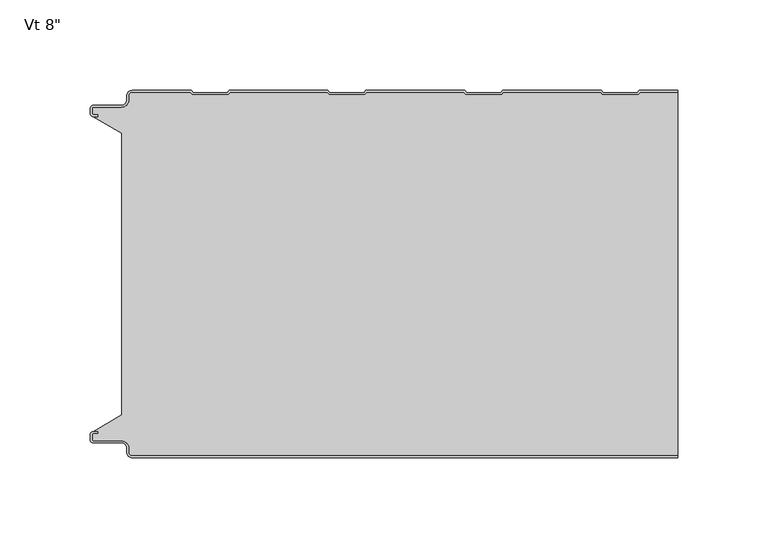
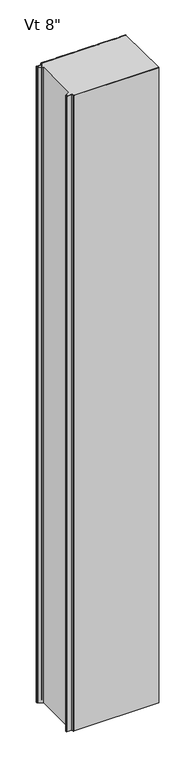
"""IFC4 building model written with IfcOpenShell, lengths in millimetres: plate geometry."""

import ifcopenshell
import ifcopenshell.guid

model = None  # the IFC model being written
_history = None  # IfcOwnerHistory: only IFC2X3 demands one
_inside = {}  # id of a spatial element -> (the spatial element, [elements in it])
_under = {}  # id of a project, library or spatial element -> (it, [spatial elements below it])
_declared = {}  # id of a project -> (the project, [libraries it declares])
_typed = {}  # id of a type object -> (the type object, [elements of that type])
_made_of = {}  # id of a material, layer set ... -> (it, [elements and type objects made of it])


def new_model(schema):
    """Start an empty IFC model of exactly this schema.

    Asked for "IFC4X3", IfcOpenShell would pick the latest addendum, in which some entities
    have other attributes; the version numbers below select the first issue.
    IFC2X3 requires an IfcOwnerHistory on every rooted entity: one is made here for all.
    """
    global model, _history
    if schema == "IFC4X3":
        model = ifcopenshell.file(schema_version=(4, 3, 0, 0))
    else:
        model = ifcopenshell.file(schema=schema)
    _inside.clear()
    _under.clear()
    _declared.clear()
    _typed.clear()
    _made_of.clear()
    _history = None
    if model.schema == "IFC2X3":
        org = make("IfcOrganization", Name="unknown")
        user = make(
            "IfcPersonAndOrganization",
            ThePerson=make("IfcPerson", FamilyName="unknown"),
            TheOrganization=org,
        )
        app = make(
            "IfcApplication",
            ApplicationDeveloper=org,
            Version="unknown",
            ApplicationFullName="unknown",
            ApplicationIdentifier="unknown",
        )
        _history = make(
            "IfcOwnerHistory",
            OwningUser=user,
            OwningApplication=app,
            ChangeAction="ADDED",
            CreationDate=0,
        )
    return model


def make(cls, **values):
    """One entity of the class cls with the attributes given. An attribute that is None is left unset."""
    return model.create_entity(
        cls, **{name: value for name, value in values.items() if value is not None}
    )


def rooted(cls, **values):
    """An entity with a GlobalId (a new one), such as an element, a storey or a relation."""
    return make(cls, GlobalId=ifcopenshell.guid.new(), OwnerHistory=_history, **values)


def si_unit(unit_type, name, prefix=None):
    """IfcSIUnit, for example si_unit("LENGTHUNIT", "METRE", prefix="MILLI")."""
    return make("IfcSIUnit", UnitType=unit_type, Prefix=prefix, Name=name)


def assignment(units):
    """IfcUnitAssignment: the units of a project."""
    return None if units is None else make("IfcUnitAssignment", Units=units)


def point(xyz):
    """IfcCartesianPoint."""
    return None if xyz is None else make("IfcCartesianPoint", Coordinates=xyz)


def direction(xyz):
    """IfcDirection."""
    return None if xyz is None else make("IfcDirection", DirectionRatios=xyz)


def frame(location, z_axis=None, x_axis=None):
    """IfcAxis2Placement3D, a coordinate frame: its origin and axes. An axis left out is left unset."""
    return make(
        "IfcAxis2Placement3D",
        Location=point(location),
        Axis=direction(z_axis),
        RefDirection=direction(x_axis),
    )


def origin():
    """The frame at (0, 0, 0) with its axes left unset."""
    return frame((0.0, 0.0, 0.0))


def place(relative_to, where):
    """IfcLocalPlacement: puts the frame where relative to a parent placement (None: the world)."""
    return make(
        "IfcLocalPlacement", PlacementRelTo=relative_to, RelativePlacement=where
    )


def context(
    kind, dimensions, precision=None, world=None, true_north=None, identifier=None
):
    """IfcGeometricRepresentationContext, for example the 3D "Model" context."""
    return make(
        "IfcGeometricRepresentationContext",
        ContextIdentifier=identifier,
        ContextType=kind,
        CoordinateSpaceDimension=dimensions,
        Precision=precision,
        WorldCoordinateSystem=world,
        TrueNorth=true_north,
    )


def project(units=None, contexts=None):
    """IfcProject with its units and contexts."""
    return rooted(
        "IfcProject",
        Name="project",
        RepresentationContexts=contexts,
        UnitsInContext=assignment(units),
    )


def spatial(cls, under=None, at=None, **own):
    """A site, building, storey or space (cls), placed at a placement, below another one or the project."""
    s = rooted(cls, ObjectPlacement=at, **own)
    if under is not None:
        _under.setdefault(under.id(), (under, []))[1].append(s)
    return s


def polyline(points):
    """IfcPolyline through the points."""
    return make("IfcPolyline", Points=[point(p) for p in points])


def circle_curve(where, radius):
    """IfcCircle in the frame where."""
    return make("IfcCircle", Position=where, Radius=radius)


def shape(context_of_items, identifier, shape_type, items):
    """IfcShapeRepresentation: the items that make up one representation, for example the "Body"."""
    return make(
        "IfcShapeRepresentation",
        ContextOfItems=context_of_items,
        RepresentationIdentifier=identifier,
        RepresentationType=shape_type,
        Items=items,
    )


def source(mapping_origin, context_of_items, identifier, shape_type, items):
    """IfcRepresentationMap: a shape defined once, which mapped items show again and again."""
    return make(
        "IfcRepresentationMap",
        MappingOrigin=mapping_origin,
        MappedRepresentation=shape(context_of_items, identifier, shape_type, items),
    )


def transform(
    local_origin,
    x_axis=None,
    y_axis=None,
    z_axis=None,
    scale=None,
    scale2=None,
    scale3=None,
    uniform=True,
):
    """IfcCartesianTransformationOperator3D, or its non-uniform kind. x_axis, y_axis, z_axis: its Axis1, 2, 3."""
    if uniform:
        return make(
            "IfcCartesianTransformationOperator3D",
            Axis1=direction(x_axis),
            Axis2=direction(y_axis),
            LocalOrigin=point(local_origin),
            Scale=scale,
            Axis3=direction(z_axis),
        )
    return make(
        "IfcCartesianTransformationOperator3DnonUniform",
        Axis1=direction(x_axis),
        Axis2=direction(y_axis),
        LocalOrigin=point(local_origin),
        Scale=scale,
        Axis3=direction(z_axis),
        Scale2=scale2,
        Scale3=scale3,
    )


def mapped(mapping_source, mapping_target):
    """IfcMappedItem: shows the shape of a source again, moved by a transform."""
    return make(
        "IfcMappedItem", MappingSource=mapping_source, MappingTarget=mapping_target
    )


def made_of(thing, what):
    """Note that an element or type object is made of a material, layer set ...; save() writes the relation."""
    if what is not None:
        _made_of.setdefault(what.id(), (what, []))[1].append(thing)
    return thing


def element(
    cls,
    number,
    at=None,
    inside=None,
    cuts=None,
    type_object=None,
    material=None,
    context=None,
    identifier="Body",
    shape_type=None,
    held_by="IfcProductDefinitionShape",
    body=None,
    shapes=None,
    **own,
):
    """One element of the class cls, such as IfcWall. Its Tag is "e" and its number.

    at: its placement. inside: the storey or other place that contains it. cuts: it is an
    opening in that element (IfcRelVoidsElement). A single representation is given by context,
    identifier, shape_type and body (its items); several are given by shapes. held_by: the class
    of the entity that holds the representations. save() writes the other relations.
    """
    e = rooted(cls, Tag="e%d" % number, ObjectPlacement=at, **own)
    if body is not None:
        shapes = [shape(context, identifier, shape_type, body)]
    if shapes is not None:
        e.Representation = make(held_by, Representations=shapes)
    if inside is not None:
        _inside.setdefault(inside.id(), (inside, []))[1].append(e)
    if cuts is not None:
        rooted(
            "IfcRelVoidsElement", RelatingBuildingElement=cuts, RelatedOpeningElement=e
        )
    if type_object is not None:
        _typed.setdefault(type_object.id(), (type_object, []))[1].append(e)
    return made_of(e, material)


def aggregate(whole, parts):
    """IfcRelAggregates: a whole, such as a stair, and the parts it consists of."""
    return rooted("IfcRelAggregates", RelatingObject=whole, RelatedObjects=parts)


def save(model, path):
    """Write the relations noted so far, then the file.

    IfcRelAggregates (storeys below a building ...), IfcRelContainedInSpatialStructure (elements
    in a storey), IfcRelDefinesByType, IfcRelAssociatesMaterial and IfcRelDeclares: one each for
    every whole, place, type object, material and project.
    """
    for whole, parts in _under.values():
        aggregate(whole, parts)
    for where, things in _inside.values():
        rooted(
            "IfcRelContainedInSpatialStructure",
            RelatedElements=things,
            RelatingStructure=where,
        )
    for kind, things in _typed.values():
        rooted("IfcRelDefinesByType", RelatedObjects=things, RelatingType=kind)
    for what, things in _made_of.values():
        rooted("IfcRelAssociatesMaterial", RelatedObjects=things, RelatingMaterial=what)
    for by, libraries in _declared.values():
        rooted("IfcRelDeclares", RelatingContext=by, RelatedDefinitions=libraries)
    model.write(path)


def plane_surface(at):
    """IfcPlane: the flat surface through the origin of the frame at, square to its z axis."""
    return make("IfcPlane", Position=at)


def cylinder_surface(at, radius):
    """IfcCylindricalSurface: all points at the distance radius from the z axis of the frame at."""
    return make("IfcCylindricalSurface", Position=at, Radius=radius)


def revolved_surface(curve, axis_point, axis_direction):
    """IfcSurfaceOfRevolution: the curve turned about the line through axis_point along axis_direction."""
    return make(
        "IfcSurfaceOfRevolution",
        SweptCurve=make("IfcArbitraryOpenProfileDef", ProfileType="CURVE", Curve=curve),
        AxisPosition=make("IfcAxis1Placement", Location=point(axis_point), Axis=direction(axis_direction)),
    )


def advanced_brep(points, edges, surfaces, faces):
    """IfcAdvancedBrep: a solid bounded by faces that lie on surfaces and meet in shared edges.

    An edge is (start, end): straight between two places in points (the first is 0);
    or (start, end, curve); or (start, end, curve, False) where it runs against its curve.
    A face is (place in surfaces, loops), or (place, loops, False) where it looks against
    its surface's normal. A loop lists edges by number (the first is 1), with a minus sign
    where the edge is run from its end to its start. The first loop is the outer one.
    """
    corners = [point(p) for p in points]
    vertices = [make("IfcVertexPoint", VertexGeometry=c) for c in corners]
    made = []
    for start, end, *more in edges:
        made.append(
            make(
                "IfcEdgeCurve",
                EdgeStart=vertices[start],
                EdgeEnd=vertices[end],
                EdgeGeometry=more[0] if more else make("IfcPolyline", Points=[corners[start], corners[end]]),
                SameSense=more[1] if len(more) > 1 else True,
            )
        )
    hull = []
    for where, loops, *sense in faces:
        bounds = []
        for j, loop in enumerate(loops):
            ring = [make("IfcOrientedEdge", EdgeElement=made[abs(k) - 1], Orientation=k > 0) for k in loop]
            bounds.append(
                make(
                    "IfcFaceOuterBound" if j == 0 else "IfcFaceBound",
                    Bound=make("IfcEdgeLoop", EdgeList=ring),
                    Orientation=True,
                )
            )
        hull.append(make("IfcAdvancedFace", Bounds=bounds, FaceSurface=surfaces[where], SameSense=sense[0] if sense else True))
    return make("IfcAdvancedBrep", Outer=make("IfcClosedShell", CfsFaces=hull))


def plate_b0e5fa2d(model_context):
    return source(origin(), model_context, "Body", "AdvancedBrep", [
        advanced_brep(
        [(133.0522163, -1.0, 2400.0), (153.7374998, -1.0, 2400.0), (153.7374998, 0.0, 2400.0), (132.6097769, 0.0, 2400.0), (131.5372521, -1.1911595, 2400.0), (112.6391361, -1.1911595, 2400.0), (111.5666112, 0.0, 2400.0), (56.9871567, 0.0, 2400.0), (55.9146318, -1.1911595, 2400.0), (37.0165158, -1.1911595, 2400.0), (35.943991, 0.0, 2400.0), (-18.6354636, 0.0, 2400.0), (-19.7079884, -1.1911595, 2400.0), (-38.6061045, -1.1911595, 2400.0), (-39.6786293, 0.0, 2400.0), (-94.2580838, 0.0, 2400.0), (-95.3306087, -1.1911595, 2400.0), (-114.2287247, -1.1911595, 2400.0), (-115.3012496, 0.0, 2400.0), (-147.9102806, 0.0, 2400.0), (-150.8875472, -2.9772904, 2400.0), (-150.8875472, -5.2691742, 2400.0), (-153.8648158, -8.2464427, 2400.0), (-169.4612418, -8.2464427, 2400.0), (-171.0491183, -9.8343193, 2400.0), (-171.0491183, -12.905868, 2400.0), (-169.4612418, -14.4937445, 2400.0), (-167.1062063, -14.4937445, 2400.0), (-167.1062063, -13.4937445, 2400.0), (-169.4612418, -13.4937445, 2400.0), (-170.0491183, -12.905868, 2400.0), (-170.0491183, -9.8343193, 2400.0), (-169.4612418, -9.2464427, 2400.0), (-153.8648158, -9.2464427, 2400.0), (-149.8875472, -5.2691742, 2400.0), (-149.8875472, -2.9772904, 2400.0), (-147.9102799, -1.0000218, 2400.0), (-115.7436889, -1.0, 2400.0), (-114.671164, -2.1911595, 2400.0), (-94.8881694, -2.1911595, 2400.0), (-93.8156445, -1.0, 2400.0), (-40.1210686, -1.0, 2400.0), (-39.0485438, -2.1911595, 2400.0), (-19.2655491, -2.1911595, 2400.0), (-18.1930243, -1.0, 2400.0), (35.5015516, -1.0, 2400.0), (36.5740765, -2.1911595, 2400.0), (56.3570712, -2.1911595, 2400.0), (57.429596, -1.0, 2400.0), (111.1241719, -1.0, 2400.0), (112.1966967, -2.1911595, 2400.0), (131.9796914, -2.1911595, 2400.0), (132.6097769, 0.0, 0.0), (153.7374998, 0.0, 0.0), (153.7374998, -1.0, 0.0), (133.0522163, -1.0, 0.0), (131.9796914, -2.1911595, 0.0), (112.1966967, -2.1911595, 0.0), (111.1241719, -1.0, 0.0), (57.429596, -1.0, 0.0), (56.3570712, -2.1911595, 0.0), (36.5740765, -2.1911595, 0.0), (35.5015516, -1.0, 0.0), (-18.1930243, -1.0, 0.0), (-19.2655491, -2.1911595, 0.0), (-39.0485438, -2.1911595, 0.0), (-40.1210686, -1.0, 0.0), (-93.8156445, -1.0, 0.0), (-94.8881694, -2.1911595, 0.0), (-114.671164, -2.1911595, 0.0), (-115.7436889, -1.0, 0.0), (-147.9102799, -1.0, 0.0), (-149.8875472, -2.9772904, 0.0), (-149.8875472, -5.2691742, 0.0), (-153.8648158, -9.2464427, 0.0), (-169.4612418, -9.2464427, 0.0), (-170.0491183, -9.8343193, 0.0), (-170.0491183, -12.905868, 0.0), (-169.4612418, -13.4937445, 0.0), (-167.1062063, -13.4937445, 0.0), (-167.1062063, -14.4937445, 0.0), (-169.4612418, -14.4937445, 0.0), (-171.0491183, -12.905868, 0.0), (-171.0491183, -9.8343193, 0.0), (-169.4612418, -8.2464427, 0.0), (-153.8648158, -8.2464427, 0.0), (-150.8875472, -5.2691742, 0.0), (-150.8875472, -2.9772904, 0.0), (-147.9102806, -2.18e-05, 0.0), (-115.3012496, 0.0, 0.0), (-114.2287247, -1.1911595, 0.0), (-95.3306087, -1.1911595, 0.0), (-94.2580838, 0.0, 0.0), (-39.6786293, 0.0, 0.0), (-38.6061045, -1.1911595, 0.0), (-19.7079884, -1.1911595, 0.0), (-18.6354636, 0.0, 0.0), (35.943991, 0.0, 0.0), (37.0165158, -1.1911595, 0.0), (55.9146318, -1.1911595, 0.0), (56.9871567, 0.0, 0.0), (111.5666112, 0.0, 0.0), (112.6391361, -1.1911595, 0.0), (131.5372521, -1.1911595, 0.0)],
        [
            (0, 1),
            (1, 2),
            (2, 3),
            (3, 4),
            (4, 5),
            (5, 6),
            (6, 7),
            (7, 8),
            (8, 9),
            (9, 10),
            (10, 11),
            (11, 12),
            (12, 13),
            (13, 14),
            (14, 15),
            (15, 16),
            (16, 17),
            (17, 18),
            (18, 19),
            (19, 20, circle_curve(frame((-147.9102787, -2.9772904, 2400.0), z_axis=(0.0, 0.0, 1.0), x_axis=(0.0, 1.0, 0.0)), 2.9772685)),
            (20, 21),
            (21, 22, circle_curve(frame((-153.8648158, -5.2691742, 2400.0), z_axis=(0.0, 0.0, -1.0), x_axis=(0.0, 1.0, 0.0)), 2.9772685)),
            (22, 23),
            (23, 24, circle_curve(frame((-169.4612418, -9.8343193, 2400.0), z_axis=(0.0, 0.0, 1.0), x_axis=(0.0, 1.0, 0.0)), 1.5878765)),
            (24, 25),
            (25, 26, circle_curve(frame((-169.4612418, -12.905868, 2400.0), z_axis=(0.0, 0.0, 1.0), x_axis=(0.0, 1.0, 0.0)), 1.5878765)),
            (26, 27),
            (27, 28),
            (28, 29),
            (29, 30, circle_curve(frame((-169.4612418, -12.905868, 2400.0), z_axis=(0.0, 0.0, -1.0), x_axis=(0.0, 1.0, 0.0)), 0.5878765)),
            (30, 31),
            (31, 32, circle_curve(frame((-169.4612418, -9.8343193, 2400.0), z_axis=(0.0, 0.0, -1.0), x_axis=(0.0, 1.0, 0.0)), 0.5878765)),
            (32, 33),
            (33, 34, circle_curve(frame((-153.8648158, -5.2691742, 2400.0), z_axis=(0.0, 0.0, 1.0), x_axis=(0.0, 1.0, 0.0)), 3.9772685)),
            (34, 35),
            (35, 36, circle_curve(frame((-147.9102787, -2.9772904, 2400.0), z_axis=(0.0, 0.0, -1.0), x_axis=(0.0, 1.0, 0.0)), 1.9772685)),
            (36, 37),
            (37, 38),
            (38, 39),
            (39, 40),
            (40, 41),
            (41, 42),
            (42, 43),
            (43, 44),
            (44, 45),
            (45, 46),
            (46, 47),
            (47, 48),
            (48, 49),
            (49, 50),
            (50, 51),
            (51, 0),
            (52, 53),
            (53, 54),
            (54, 55),
            (55, 56),
            (56, 57),
            (57, 58),
            (58, 59),
            (59, 60),
            (60, 61),
            (61, 62),
            (62, 63),
            (63, 64),
            (64, 65),
            (65, 66),
            (66, 67),
            (67, 68),
            (68, 69),
            (69, 70),
            (70, 71),
            (71, 72, circle_curve(frame((-147.9102787, -2.9772904, 0.0), z_axis=(0.0, 0.0, 1.0), x_axis=(0.0, 1.0, 0.0)), 1.9772685)),
            (72, 73),
            (73, 74, circle_curve(frame((-153.8648158, -5.2691742, 0.0), z_axis=(0.0, 0.0, -1.0), x_axis=(0.0, 1.0, 0.0)), 3.9772685)),
            (74, 75),
            (75, 76, circle_curve(frame((-169.4612418, -9.8343193, 0.0), z_axis=(0.0, 0.0, 1.0), x_axis=(0.0, 1.0, 0.0)), 0.5878765)),
            (76, 77),
            (77, 78, circle_curve(frame((-169.4612418, -12.905868, 0.0), z_axis=(0.0, 0.0, 1.0), x_axis=(0.0, 1.0, 0.0)), 0.5878765)),
            (78, 79),
            (79, 80),
            (80, 81),
            (81, 82, circle_curve(frame((-169.4612418, -12.905868, 0.0), z_axis=(0.0, 0.0, -1.0), x_axis=(0.0, 1.0, 0.0)), 1.5878765)),
            (82, 83),
            (83, 84, circle_curve(frame((-169.4612418, -9.8343193, 0.0), z_axis=(0.0, 0.0, -1.0), x_axis=(0.0, 1.0, 0.0)), 1.5878765)),
            (84, 85),
            (85, 86, circle_curve(frame((-153.8648158, -5.2691742, 0.0), z_axis=(0.0, 0.0, 1.0), x_axis=(0.0, 1.0, 0.0)), 2.9772685)),
            (86, 87),
            (87, 88, circle_curve(frame((-147.9102787, -2.9772904, 0.0), z_axis=(0.0, 0.0, -1.0), x_axis=(0.0, 1.0, 0.0)), 2.9772685)),
            (88, 89),
            (89, 90),
            (90, 91),
            (91, 92),
            (92, 93),
            (93, 94),
            (94, 95),
            (95, 96),
            (96, 97),
            (97, 98),
            (98, 99),
            (99, 100),
            (100, 101),
            (101, 102),
            (102, 103),
            (103, 52),
            (54, 1),
            (0, 55),
            (51, 56),
            (50, 57),
            (49, 58),
            (48, 59),
            (47, 60),
            (46, 61),
            (45, 62),
            (44, 63),
            (43, 64),
            (42, 65),
            (41, 66),
            (40, 67),
            (39, 68),
            (38, 69),
            (37, 70),
            (36, 71),
            (35, 72),
            (34, 73),
            (33, 74),
            (32, 75),
            (31, 76),
            (30, 77),
            (29, 78),
            (28, 79),
            (27, 80),
            (26, 81),
            (25, 82),
            (24, 83),
            (23, 84),
            (22, 85),
            (21, 86),
            (20, 87),
            (19, 88),
            (18, 89),
            (17, 90),
            (16, 91),
            (15, 92),
            (14, 93),
            (13, 94),
            (12, 95),
            (11, 96),
            (10, 97),
            (9, 98),
            (8, 99),
            (7, 100),
            (6, 101),
            (5, 102),
            (4, 103),
            (3, 52),
            (2, 53),
        ],
        [
            plane_surface(frame((422.5250002, 0.0, 2400.0), z_axis=(0.0, 0.0, 1.0), x_axis=(0.0, 1.0, 0.0))),
            plane_surface(frame((422.5250002, 0.0, 0.0), z_axis=(0.0, 0.0, -1.0), x_axis=(0.0, 1.0, 0.0))),
            plane_surface(frame((186.7467922, -1.0, 2400.0), z_axis=(0.0, -1.0, 0.0), x_axis=(0.0, 0.0, -1.0))),
            plane_surface(frame((133.0522163, -1.0, 2400.0), z_axis=(0.7431448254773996, -0.6691306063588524, 0.0), x_axis=(0.0, 0.0, -1.0))),
            plane_surface(frame((131.9796914, -2.1911595, 2400.0), z_axis=(0.0, -1.0, 0.0), x_axis=(0.0, 0.0, -1.0))),
            plane_surface(frame((112.1966967, -2.1911595, 2400.0), z_axis=(-0.7431448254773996, -0.6691306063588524, 0.0), x_axis=(0.0, 0.0, -1.0))),
            plane_surface(frame((111.1241719, -1.0, 2400.0), z_axis=(0.0, -1.0, 0.0), x_axis=(0.0, 0.0, -1.0))),
            plane_surface(frame((57.429596, -1.0, 2400.0), z_axis=(0.7431448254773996, -0.6691306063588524, 0.0), x_axis=(0.0, 0.0, -1.0))),
            plane_surface(frame((56.3570712, -2.1911595, 2400.0), z_axis=(0.0, -1.0, 0.0), x_axis=(0.0, 0.0, -1.0))),
            plane_surface(frame((36.5740765, -2.1911595, 2400.0), z_axis=(-0.7431448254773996, -0.6691306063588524, 0.0), x_axis=(0.0, 0.0, -1.0))),
            plane_surface(frame((35.5015516, -1.0, 2400.0), z_axis=(0.0, -1.0, 0.0), x_axis=(0.0, 0.0, -1.0))),
            plane_surface(frame((-18.1930243, -1.0, 2400.0), z_axis=(0.7431448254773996, -0.6691306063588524, 0.0), x_axis=(0.0, 0.0, -1.0))),
            plane_surface(frame((-19.2655491, -2.1911595, 2400.0), z_axis=(0.0, -1.0, 0.0), x_axis=(0.0, 0.0, -1.0))),
            plane_surface(frame((-39.0485438, -2.1911595, 2400.0), z_axis=(-0.7431448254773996, -0.6691306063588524, 0.0), x_axis=(0.0, 0.0, -1.0))),
            plane_surface(frame((-40.1210686, -1.0, 2400.0), z_axis=(0.0, -1.0, 0.0), x_axis=(0.0, 0.0, -1.0))),
            plane_surface(frame((-93.8156445, -1.0, 2400.0), z_axis=(0.7431448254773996, -0.6691306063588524, 0.0), x_axis=(0.0, 0.0, -1.0))),
            plane_surface(frame((-94.8881694, -2.1911595, 2400.0), z_axis=(0.0, -1.0, 0.0), x_axis=(0.0, 0.0, -1.0))),
            plane_surface(frame((-114.671164, -2.1911595, 2400.0), z_axis=(-0.7431448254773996, -0.6691306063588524, 0.0), x_axis=(0.0, 0.0, -1.0))),
            plane_surface(frame((-115.7436889, -1.0, 2400.0), z_axis=(0.0, -1.0, 0.0), x_axis=(0.0, 0.0, -1.0))),
            revolved_surface(polyline([(-147.9102787, -1.0000218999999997, 0.0), (-147.9102787, -1.0000218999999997, 2400.0)]), (-147.9102787, -2.9772904, 2400.0), (0.0, 0.0, -1.0)),
            plane_surface(frame((-149.8875472, -2.9772904, 2400.0), z_axis=(1.0, 0.0, 0.0), x_axis=(0.0, 0.0, -1.0))),
            cylinder_surface(frame((-153.8648158, -5.2691742, 2400.0), z_axis=(0.0, 0.0, 1.0), x_axis=(0.0, 1.0, 0.0)), 3.9772685),
            plane_surface(frame((-153.8648158, -9.2464427, 2400.0), z_axis=(0.0, -1.0, 0.0), x_axis=(0.0, 0.0, -1.0))),
            revolved_surface(polyline([(-169.4612418, -9.2464428, 0.0), (-169.4612418, -9.2464428, 2400.0)]), (-169.4612418, -9.8343193, 2400.0), (0.0, 0.0, -1.0)),
            plane_surface(frame((-170.0491183, -9.8343193, 2400.0), z_axis=(1.0, 0.0, 0.0), x_axis=(0.0, 0.0, -1.0))),
            revolved_surface(polyline([(-169.4612418, -12.3179915, 0.0), (-169.4612418, -12.3179915, 2400.0)]), (-169.4612418, -12.905868, 2400.0), (0.0, 0.0, -1.0)),
            plane_surface(frame((-169.4612418, -13.4937445, 2400.0), z_axis=(0.0, 1.0, 0.0), x_axis=(0.0, 0.0, -1.0))),
            plane_surface(frame((-167.1062063, -13.4937445, 2400.0), z_axis=(1.0, 0.0, 0.0), x_axis=(0.0, 0.0, -1.0))),
            plane_surface(frame((-167.1062063, -14.4937445, 2400.0), z_axis=(0.0, -1.0, 0.0), x_axis=(0.0, 0.0, -1.0))),
            cylinder_surface(frame((-169.4612418, -12.905868, 2400.0), z_axis=(0.0, 0.0, 1.0), x_axis=(0.0, 1.0, 0.0)), 1.5878765),
            plane_surface(frame((-171.0491183, -12.905868, 2400.0), z_axis=(-1.0, 0.0, 0.0), x_axis=(0.0, 0.0, -1.0))),
            cylinder_surface(frame((-169.4612418, -9.8343193, 2400.0), z_axis=(0.0, 0.0, 1.0), x_axis=(0.0, 1.0, 0.0)), 1.5878765),
            plane_surface(frame((-169.4612418, -8.2464427, 2400.0), z_axis=(0.0, 1.0, 0.0), x_axis=(0.0, 0.0, -1.0))),
            revolved_surface(polyline([(-153.8648158, -2.2919057, 0.0), (-153.8648158, -2.2919057, 2400.0)]), (-153.8648158, -5.2691742, 2400.0), (0.0, 0.0, -1.0)),
            plane_surface(frame((-150.8875472, -5.2691742, 2400.0), z_axis=(-1.0, 0.0, 0.0), x_axis=(0.0, 0.0, -1.0))),
            cylinder_surface(frame((-147.9102787, -2.9772904, 2400.0), z_axis=(0.0, 0.0, 1.0), x_axis=(0.0, 1.0, 0.0)), 2.9772685),
            plane_surface(frame((-147.9102806, 0.0, 2400.0), z_axis=(0.0, 1.0, 0.0), x_axis=(0.0, 0.0, -1.0))),
            plane_surface(frame((-115.3012496, 0.0, 2400.0), z_axis=(0.7431448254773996, 0.6691306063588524, 0.0), x_axis=(0.0, 0.0, -1.0))),
            plane_surface(frame((-114.2287247, -1.1911595, 2400.0), z_axis=(0.0, 1.0, 0.0), x_axis=(0.0, 0.0, -1.0))),
            plane_surface(frame((-95.3306087, -1.1911595, 2400.0), z_axis=(-0.7431448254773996, 0.6691306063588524, 0.0), x_axis=(0.0, 0.0, -1.0))),
            plane_surface(frame((-94.2580838, 0.0, 2400.0), z_axis=(0.0, 1.0, 0.0), x_axis=(0.0, 0.0, -1.0))),
            plane_surface(frame((-39.6786293, 0.0, 2400.0), z_axis=(0.7431448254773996, 0.6691306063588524, 0.0), x_axis=(0.0, 0.0, -1.0))),
            plane_surface(frame((-38.6061045, -1.1911595, 2400.0), z_axis=(0.0, 1.0, 0.0), x_axis=(0.0, 0.0, -1.0))),
            plane_surface(frame((-19.7079884, -1.1911595, 2400.0), z_axis=(-0.7431448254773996, 0.6691306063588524, 0.0), x_axis=(0.0, 0.0, -1.0))),
            plane_surface(frame((-18.6354636, 0.0, 2400.0), z_axis=(0.0, 1.0, 0.0), x_axis=(0.0, 0.0, -1.0))),
            plane_surface(frame((35.943991, 0.0, 2400.0), z_axis=(0.7431448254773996, 0.6691306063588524, 0.0), x_axis=(0.0, 0.0, -1.0))),
            plane_surface(frame((37.0165158, -1.1911595, 2400.0), z_axis=(0.0, 1.0, 0.0), x_axis=(0.0, 0.0, -1.0))),
            plane_surface(frame((55.9146318, -1.1911595, 2400.0), z_axis=(-0.7431448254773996, 0.6691306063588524, 0.0), x_axis=(0.0, 0.0, -1.0))),
            plane_surface(frame((56.9871567, 0.0, 2400.0), z_axis=(0.0, 1.0, 0.0), x_axis=(0.0, 0.0, -1.0))),
            plane_surface(frame((111.5666112, 0.0, 2400.0), z_axis=(0.7431448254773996, 0.6691306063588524, 0.0), x_axis=(0.0, 0.0, -1.0))),
            plane_surface(frame((112.6391361, -1.1911595, 2400.0), z_axis=(0.0, 1.0, 0.0), x_axis=(0.0, 0.0, -1.0))),
            plane_surface(frame((131.5372521, -1.1911595, 2400.0), z_axis=(-0.7431448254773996, 0.6691306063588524, 0.0), x_axis=(0.0, 0.0, -1.0))),
            plane_surface(frame((132.6097769, 0.0, 2400.0), z_axis=(0.0, 1.0, 0.0), x_axis=(0.0, 0.0, -1.0))),
            plane_surface(frame((153.7374998, -213.2, 2400.0), z_axis=(1.0, 0.0, 0.0), x_axis=(0.0, 0.0, -1.0))),
        ],
        [
            (0, [[1, 2, 3, 4, 5, 6, 7, 8, 9, 10, 11, 12, 13, 14, 15, 16, 17, 18, 19, 20, 21, 22, 23, 24, 25, 26, 27, 28, 29, 30, 31, 32, 33, 34, 35, 36, 37, 38, 39, 40, 41, 42, 43, 44, 45, 46, 47, 48, 49, 50, 51, 52]]),
            (1, [[53, 54, 55, 56, 57, 58, 59, 60, 61, 62, 63, 64, 65, 66, 67, 68, 69, 70, 71, 72, 73, 74, 75, 76, 77, 78, 79, 80, 81, 82, 83, 84, 85, 86, 87, 88, 89, 90, 91, 92, 93, 94, 95, 96, 97, 98, 99, 100, 101, 102, 103, 104]]),
            (2, [[-55, 105, -1, 106]]),
            (3, [[107, -56, -106, -52]]),
            (4, [[108, -57, -107, -51]]),
            (5, [[109, -58, -108, -50]]),
            (6, [[110, -59, -109, -49]]),
            (7, [[111, -60, -110, -48]]),
            (8, [[112, -61, -111, -47]]),
            (9, [[113, -62, -112, -46]]),
            (10, [[114, -63, -113, -45]]),
            (11, [[115, -64, -114, -44]]),
            (12, [[116, -65, -115, -43]]),
            (13, [[117, -66, -116, -42]]),
            (14, [[118, -67, -117, -41]]),
            (15, [[119, -68, -118, -40]]),
            (16, [[120, -69, -119, -39]]),
            (17, [[121, -70, -120, -38]]),
            (18, [[122, -71, -121, -37]]),
            (19, [[123, -72, -122, -36]]),
            (20, [[124, -73, -123, -35]]),
            (21, [[125, -74, -124, -34]]),
            (22, [[126, -75, -125, -33]]),
            (23, [[127, -76, -126, -32]]),
            (24, [[128, -77, -127, -31]]),
            (25, [[129, -78, -128, -30]]),
            (26, [[130, -79, -129, -29]]),
            (27, [[131, -80, -130, -28]]),
            (28, [[132, -81, -131, -27]]),
            (29, [[133, -82, -132, -26]]),
            (30, [[134, -83, -133, -25]]),
            (31, [[135, -84, -134, -24]]),
            (32, [[136, -85, -135, -23]]),
            (33, [[137, -86, -136, -22]]),
            (34, [[138, -87, -137, -21]]),
            (35, [[139, -88, -138, -20]]),
            (36, [[140, -89, -139, -19]]),
            (37, [[141, -90, -140, -18]]),
            (38, [[142, -91, -141, -17]]),
            (39, [[143, -92, -142, -16]]),
            (40, [[144, -93, -143, -15]]),
            (41, [[145, -94, -144, -14]]),
            (42, [[146, -95, -145, -13]]),
            (43, [[147, -96, -146, -12]]),
            (44, [[148, -97, -147, -11]]),
            (45, [[149, -98, -148, -10]]),
            (46, [[150, -99, -149, -9]]),
            (47, [[151, -100, -150, -8]]),
            (48, [[152, -101, -151, -7]]),
            (49, [[153, -102, -152, -6]]),
            (50, [[154, -103, -153, -5]]),
            (51, [[155, -104, -154, -4]]),
            (52, [[-3, 156, -53, -155]]),
            (53, [[-105, -54, -156, -2]]),
        ],
    ),
        advanced_brep(
        [(-149.8873936, -200.2223811, 2400.0), (-149.8873936, -197.9308685, 2400.0), (-153.864739, -193.9535232, 2400.0), (-169.4612512, -193.9535232, 2400.0), (-170.0491084, -193.365666, 2400.0), (-170.0491084, -190.2941346, 2400.0), (-169.4612373, -189.7062635, 2400.0), (-167.1062063, -189.7062635, 2400.0), (-167.1062063, -188.7062599, 2400.0), (-169.4612418, -188.7062599, 2400.0), (-171.0491183, -190.2941364, 2400.0), (-171.0491183, -193.3656851, 2400.0), (-169.4612418, -194.9535616, 2400.0), (-153.8648158, -194.9535616, 2400.0), (-150.8875472, -197.9308302, 2400.0), (-150.8875472, -200.222714, 2400.0), (-147.9102787, -203.1999825, 2400.0), (153.7374998, -203.2, 2400.0), (153.7374998, -202.1992912, 2400.0), (-147.9104835, -202.1992912, 2400.0), (-149.8873936, -200.2223811, 0.0), (-147.9104835, -202.1992912, 0.0), (153.7374998, -202.1992912, 0.0), (153.7374998, -203.2, 0.0), (-147.9102787, -203.2, 0.0), (-150.8875472, -200.222714, 0.0), (-150.8875472, -197.9308302, 0.0), (-153.8648158, -194.9535616, 0.0), (-169.4612418, -194.9535616, 0.0), (-171.0491183, -193.3656851, 0.0), (-171.0491183, -190.2941364, 0.0), (-169.4612418, -188.7062599, 0.0), (-167.1062063, -188.7062599, 0.0), (-167.1062063, -189.7062635, 0.0), (-169.4612373, -189.7062635, 0.0), (-170.0491084, -190.2941346, 0.0), (-170.0491084, -193.365666, 0.0), (-169.4612512, -193.9535232, 0.0), (-153.864739, -193.9535232, 0.0), (-149.8873936, -197.9308685, 0.0)],
        [
            (0, 1),
            (1, 2, circle_curve(frame((-153.864739, -197.9308685, 2400.0), z_axis=(0.0, 0.0, 1.0), x_axis=(-1.0, 0.0, 0.0)), 3.9773454)),
            (2, 3),
            (3, 4, circle_curve(frame((-169.4612512, -193.365666, 2400.0), z_axis=(0.0, 0.0, -1.0), x_axis=(-1.0, 0.0, 0.0)), 0.5878572)),
            (4, 5),
            (5, 6, circle_curve(frame((-169.4612373, -190.2941346, 2400.0), z_axis=(0.0, 0.0, -1.0), x_axis=(-1.0, 0.0, 0.0)), 0.5878711)),
            (6, 7),
            (7, 8),
            (8, 9),
            (9, 10, circle_curve(frame((-169.4612418, -190.2941364, 2400.0), z_axis=(0.0, 0.0, 1.0), x_axis=(-1.0, 0.0, 0.0)), 1.5878765)),
            (10, 11),
            (11, 12, circle_curve(frame((-169.4612418, -193.3656851, 2400.0), z_axis=(0.0, 0.0, 1.0), x_axis=(-1.0, 0.0, 0.0)), 1.5878765)),
            (12, 13),
            (13, 14, circle_curve(frame((-153.8648158, -197.9308302, 2400.0), z_axis=(0.0, 0.0, -1.0), x_axis=(-1.0, 0.0, 0.0)), 2.9772685)),
            (14, 15),
            (15, 16, circle_curve(frame((-147.9102787, -200.222714, 2400.0), z_axis=(0.0, 0.0, 1.0), x_axis=(-1.0, 0.0, 0.0)), 2.9772685)),
            (16, 17),
            (17, 18),
            (18, 19),
            (19, 0, circle_curve(frame((-147.9104835, -200.2223811, 2400.0), z_axis=(0.0, 0.0, -1.0), x_axis=(-1.0, 0.0, 0.0)), 1.9769101)),
            (20, 21, circle_curve(frame((-147.9104835, -200.2223811, 0.0), z_axis=(0.0, 0.0, 1.0), x_axis=(-1.0, 0.0, 0.0)), 1.9769101)),
            (21, 22),
            (22, 23),
            (23, 24),
            (24, 25, circle_curve(frame((-147.9102787, -200.222714, 0.0), z_axis=(0.0, 0.0, -1.0), x_axis=(-1.0, 0.0, 0.0)), 2.9772685)),
            (25, 26),
            (26, 27, circle_curve(frame((-153.8648158, -197.9308302, 0.0), z_axis=(0.0, 0.0, 1.0), x_axis=(-1.0, 0.0, 0.0)), 2.9772685)),
            (27, 28),
            (28, 29, circle_curve(frame((-169.4612418, -193.3656851, 0.0), z_axis=(0.0, 0.0, -1.0), x_axis=(-1.0, 0.0, 0.0)), 1.5878765)),
            (29, 30),
            (30, 31, circle_curve(frame((-169.4612418, -190.2941364, 0.0), z_axis=(0.0, 0.0, -1.0), x_axis=(-1.0, 0.0, 0.0)), 1.5878765)),
            (31, 32),
            (32, 33),
            (33, 34),
            (34, 35, circle_curve(frame((-169.4612373, -190.2941346, 0.0), z_axis=(0.0, 0.0, 1.0), x_axis=(-1.0, 0.0, 0.0)), 0.5878711)),
            (35, 36),
            (36, 37, circle_curve(frame((-169.4612512, -193.365666, 0.0), z_axis=(0.0, 0.0, 1.0), x_axis=(-1.0, 0.0, 0.0)), 0.5878572)),
            (37, 38),
            (38, 39, circle_curve(frame((-153.864739, -197.9308685, 0.0), z_axis=(0.0, 0.0, -1.0), x_axis=(-1.0, 0.0, 0.0)), 3.9773454)),
            (39, 20),
            (17, 23),
            (22, 18),
            (16, 24),
            (21, 19),
            (20, 0),
            (39, 1),
            (38, 2),
            (37, 3),
            (4, 36),
            (35, 5),
            (34, 6),
            (33, 7),
            (32, 8),
            (31, 9),
            (30, 10),
            (29, 11),
            (28, 12),
            (27, 13),
            (26, 14),
            (25, 15),
        ],
        [
            plane_surface(frame((422.5250002, -203.2, 2400.0), z_axis=(0.0, 0.0, 1.0), x_axis=(0.0, -1.0, 0.0))),
            plane_surface(frame((422.5250002, -203.2, 0.0), z_axis=(0.0, 0.0, -1.0), x_axis=(0.0, -1.0, 0.0))),
            plane_surface(frame((153.7374998, -213.2, 2400.0), z_axis=(1.0, 0.0, 0.0), x_axis=(0.0, 0.0, -1.0))),
            plane_surface(frame((997.0725653, -203.2, 2400.0), z_axis=(0.0, -1.0, 0.0), x_axis=(0.0, 0.0, -1.0))),
            plane_surface(frame((-147.9104835, -202.1992912, 2400.0), z_axis=(0.0, 1.0, 0.0), x_axis=(0.0, 0.0, -1.0))),
            revolved_surface(polyline([(-149.8873936, -200.2223811, 0.0), (-149.8873936, -200.2223811, 2400.0)]), (-147.9104835, -200.2223811, 2400.0), (0.0, 0.0, -1.0)),
            plane_surface(frame((-149.8873936, -197.9308685, 2400.0), z_axis=(1.0, 0.0, 0.0), x_axis=(0.0, 0.0, -1.0))),
            cylinder_surface(frame((-153.864739, -197.9308685, 2400.0), z_axis=(0.0, 0.0, 1.0), x_axis=(-1.0, 0.0, 0.0)), 3.9773454),
            plane_surface(frame((-169.4612512, -193.9535232, 2400.0), z_axis=(0.0, 1.0, 0.0), x_axis=(0.0, 0.0, -1.0))),
            plane_surface(frame((-170.0491084, -190.2941346, 2400.0), z_axis=(1.0, 0.0, 0.0), x_axis=(0.0, 0.0, -1.0))),
            revolved_surface(polyline([(-170.0491084, -190.2941346, 0.0), (-170.0491084, -190.2941346, 2400.0)]), (-169.4612373, -190.2941346, 2400.0), (0.0, 0.0, -1.0)),
            plane_surface(frame((-167.1062063, -189.7062635, 2400.0), z_axis=(0.0, -1.0, 0.0), x_axis=(0.0, 0.0, -1.0))),
            plane_surface(frame((-167.1062063, -188.7062599, 2400.0), z_axis=(1.0, 0.0, 0.0), x_axis=(0.0, 0.0, -1.0))),
            plane_surface(frame((-169.4612418, -188.7062599, 2400.0), z_axis=(0.0, 1.0, 0.0), x_axis=(0.0, 0.0, -1.0))),
            cylinder_surface(frame((-169.4612418, -190.2941364, 2400.0), z_axis=(0.0, 0.0, 1.0), x_axis=(-1.0, 0.0, 0.0)), 1.5878765),
            plane_surface(frame((-171.0491183, -193.3656851, 2400.0), z_axis=(-1.0, 0.0, 0.0), x_axis=(0.0, 0.0, -1.0))),
            cylinder_surface(frame((-169.4612418, -193.3656851, 2400.0), z_axis=(0.0, 0.0, 1.0), x_axis=(-1.0, 0.0, 0.0)), 1.5878765),
            plane_surface(frame((-153.8648158, -194.9535616, 2400.0), z_axis=(0.0, -1.0, 0.0), x_axis=(0.0, 0.0, -1.0))),
            revolved_surface(polyline([(-156.8420843, -197.9308302, 0.0), (-156.8420843, -197.9308302, 2400.0)]), (-153.8648158, -197.9308302, 2400.0), (0.0, 0.0, -1.0)),
            plane_surface(frame((-150.8875472, -200.222714, 2400.0), z_axis=(-1.0, 0.0, 0.0), x_axis=(0.0, 0.0, -1.0))),
            cylinder_surface(frame((-147.9102787, -200.222714, 2400.0), z_axis=(0.0, 0.0, 1.0), x_axis=(-1.0, 0.0, 0.0)), 2.9772685),
            revolved_surface(polyline([(-170.0491084, -193.365666, 0.0), (-170.0491084, -193.365666, 2400.0)]), (-169.4612512, -193.365666, 2400.0), (0.0, 0.0, -1.0)),
        ],
        [
            (0, [[1, 2, 3, 4, 5, 6, 7, 8, 9, 10, 11, 12, 13, 14, 15, 16, 17, 18, 19, 20]]),
            (1, [[21, 22, 23, 24, 25, 26, 27, 28, 29, 30, 31, 32, 33, 34, 35, 36, 37, 38, 39, 40]]),
            (2, [[41, -23, 42, -18]]),
            (3, [[-24, -41, -17, 43]]),
            (4, [[-19, -42, -22, 44]]),
            (5, [[-44, -21, 45, -20]]),
            (6, [[-45, -40, 46, -1]]),
            (7, [[-46, -39, 47, -2]]),
            (8, [[-47, -38, 48, -3]]),
            (9, [[49, -36, 50, -5]]),
            (10, [[-50, -35, 51, -6]]),
            (11, [[-51, -34, 52, -7]]),
            (12, [[-52, -33, 53, -8]]),
            (13, [[-53, -32, 54, -9]]),
            (14, [[-54, -31, 55, -10]]),
            (15, [[-55, -30, 56, -11]]),
            (16, [[-56, -29, 57, -12]]),
            (17, [[-57, -28, 58, -13]]),
            (18, [[-58, -27, 59, -14]]),
            (19, [[-59, -26, 60, -15]]),
            (20, [[-60, -25, -43, -16]]),
            (21, [[-48, -37, -49, -4]]),
        ],
    ),
        advanced_brep(
        [(-149.88755, -200.2227194, 2400.0), (-147.910276, -202.1999935, 2400.0), (153.7374998, -202.2, 2400.0), (153.7374998, -1.0, 2400.0), (133.0522163, -1.0, 2400.0), (131.9796914, -2.1911595, 2400.0), (112.1966967, -2.1911595, 2400.0), (111.1241719, -1.0, 2400.0), (57.429596, -1.0, 2400.0), (56.3570712, -2.1911595, 2400.0), (36.5740765, -2.1911595, 2400.0), (35.5015516, -1.0, 2400.0), (-18.1930243, -1.0, 2400.0), (-19.2655491, -2.1911595, 2400.0), (-39.0485438, -2.1911595, 2400.0), (-40.1210686, -1.0, 2400.0), (-93.8156445, -1.0, 2400.0), (-94.8881694, -2.1911595, 2400.0), (-114.671164, -2.1911595, 2400.0), (-115.7436889, -1.0000109, 2400.0), (-147.910276, -1.0000109, 2400.0), (-149.88755, -2.9772849, 2400.0), (-149.88755, -5.2691749, 2400.0), (-153.8648171, -9.246442, 2400.0), (-169.4612416, -9.246442, 2400.0), (-170.0491185, -9.8343189, 2400.0), (-170.0491185, -12.9058679, 2400.0), (-169.4612418, -13.4937446, 2400.0), (-167.1062063, -13.4937446, 2400.0), (-167.1062063, -14.4937446, 2400.0), (-169.395785, -14.4937446, 2400.0), (-153.7374998, -23.7509179, 2400.0), (-153.7374998, -179.4490865, 2400.0), (-169.395785, -188.7062598, 2400.0), (-167.1062063, -188.7062598, 2400.0), (-167.1062063, -189.7062598, 2400.0), (-169.4612418, -189.7062598, 2400.0), (-170.0491185, -190.2941365, 2400.0), (-170.0491185, -193.3656854, 2400.0), (-169.4612416, -193.9535623, 2400.0), (-153.8648171, -193.9535623, 2400.0), (-149.88755, -197.9308295, 2400.0), (-149.88755, -200.2227194, 0.0), (-149.88755, -197.9308295, 0.0), (-153.8648171, -193.9535623, 0.0), (-169.4612416, -193.9535623, 0.0), (-170.0491185, -193.3656854, 0.0), (-170.0491185, -190.2941365, 0.0), (-169.4612418, -189.7062598, 0.0), (-167.1062063, -189.7062598, 0.0), (-167.1062063, -188.7062598, 0.0), (-169.395785, -188.7062598, 0.0), (-153.7374998, -179.4490865, 0.0), (-153.7374998, -23.7509179, 0.0), (-169.395785, -14.4937446, 0.0), (-167.1062063, -14.4937446, 0.0), (-167.1062063, -13.4937446, 0.0), (-169.4612418, -13.4937446, 0.0), (-170.0491185, -12.9058679, 0.0), (-170.0491185, -9.8343189, 0.0), (-169.4612416, -9.246442, 0.0), (-153.8648171, -9.246442, 0.0), (-149.88755, -5.2691749, 0.0), (-149.88755, -2.9772849, 0.0), (-147.910276, -1.0000109, 0.0), (-115.7436889, -1.0000109, 0.0), (-114.671164, -2.1911595, 0.0), (-94.8881694, -2.1911595, 0.0), (-93.8156445, -1.0, 0.0), (-40.1210686, -1.0, 0.0), (-39.0485438, -2.1911595, 0.0), (-19.2655491, -2.1911595, 0.0), (-18.1930243, -1.0, 0.0), (35.5015516, -1.0, 0.0), (36.5740765, -2.1911595, 0.0), (56.3570712, -2.1911595, 0.0), (57.429596, -1.0, 0.0), (111.1241719, -1.0, 0.0), (112.1966967, -2.1911595, 0.0), (131.9796914, -2.1911595, 0.0), (133.0522163, -1.0, 0.0), (153.7374998, -1.0, 0.0), (153.7374998, -202.2, 0.0), (-147.910276, -202.2, 0.0)],
        [
            (0, 1, circle_curve(frame((-147.910276, -200.2227194, 2400.0), z_axis=(0.0, 0.0, 1.0), x_axis=(-1.0, 0.0, 0.0)), 1.977274)),
            (1, 2),
            (2, 3),
            (3, 4),
            (4, 5),
            (5, 6),
            (6, 7),
            (7, 8),
            (8, 9),
            (9, 10),
            (10, 11),
            (11, 12),
            (12, 13),
            (13, 14),
            (14, 15),
            (15, 16),
            (16, 17),
            (17, 18),
            (18, 19),
            (19, 20),
            (20, 21, circle_curve(frame((-147.910276, -2.9772849, 2400.0), z_axis=(0.0, 0.0, 1.0), x_axis=(0.0, 1.0, 0.0)), 1.977274)),
            (21, 22),
            (22, 23, circle_curve(frame((-153.8648171, -5.2691749, 2400.0), z_axis=(0.0, 0.0, -1.0), x_axis=(0.0, 1.0, 0.0)), 3.9772671)),
            (23, 24),
            (24, 25, circle_curve(frame((-169.4612416, -9.8343189, 2400.0), z_axis=(0.0, 0.0, 1.0), x_axis=(0.0, 1.0, 0.0)), 0.5878769)),
            (25, 26),
            (26, 27, circle_curve(frame((-169.4612418, -12.9058679, 2400.0), z_axis=(0.0, 0.0, 1.0), x_axis=(0.0, 1.0, 0.0)), 0.5878766)),
            (27, 28),
            (28, 29),
            (29, 30),
            (30, 31),
            (31, 32),
            (32, 33),
            (33, 34),
            (34, 35),
            (35, 36),
            (36, 37, circle_curve(frame((-169.4612418, -190.2941365, 2400.0), z_axis=(0.0, 0.0, 1.0), x_axis=(-1.0, 0.0, 0.0)), 0.5878766)),
            (37, 38),
            (38, 39, circle_curve(frame((-169.4612416, -193.3656854, 2400.0), z_axis=(0.0, 0.0, 1.0), x_axis=(-1.0, 0.0, 0.0)), 0.5878769)),
            (39, 40),
            (40, 41, circle_curve(frame((-153.8648171, -197.9308295, 2400.0), z_axis=(0.0, 0.0, -1.0), x_axis=(-1.0, 0.0, 0.0)), 3.9772671)),
            (41, 0),
            (42, 43),
            (43, 44, circle_curve(frame((-153.8648171, -197.9308295, 0.0), z_axis=(0.0, 0.0, 1.0), x_axis=(-1.0, 0.0, 0.0)), 3.9772671)),
            (44, 45),
            (45, 46, circle_curve(frame((-169.4612416, -193.3656854, 0.0), z_axis=(0.0, 0.0, -1.0), x_axis=(-1.0, 0.0, 0.0)), 0.5878769)),
            (46, 47),
            (47, 48, circle_curve(frame((-169.4612418, -190.2941365, 0.0), z_axis=(0.0, 0.0, -1.0), x_axis=(-1.0, 0.0, 0.0)), 0.5878766)),
            (48, 49),
            (49, 50),
            (50, 51),
            (51, 52),
            (52, 53),
            (53, 54),
            (54, 55),
            (55, 56),
            (56, 57),
            (57, 58, circle_curve(frame((-169.4612418, -12.9058679, 0.0), z_axis=(0.0, 0.0, -1.0), x_axis=(0.0, 1.0, 0.0)), 0.5878766)),
            (58, 59),
            (59, 60, circle_curve(frame((-169.4612416, -9.8343189, 0.0), z_axis=(0.0, 0.0, -1.0), x_axis=(0.0, 1.0, 0.0)), 0.5878769)),
            (60, 61),
            (61, 62, circle_curve(frame((-153.8648171, -5.2691749, 0.0), z_axis=(0.0, 0.0, 1.0), x_axis=(0.0, 1.0, 0.0)), 3.9772671)),
            (62, 63),
            (63, 64, circle_curve(frame((-147.910276, -2.9772849, 0.0), z_axis=(0.0, 0.0, -1.0), x_axis=(0.0, 1.0, 0.0)), 1.977274)),
            (64, 65),
            (65, 66),
            (66, 67),
            (67, 68),
            (68, 69),
            (69, 70),
            (70, 71),
            (71, 72),
            (72, 73),
            (73, 74),
            (74, 75),
            (75, 76),
            (76, 77),
            (77, 78),
            (78, 79),
            (79, 80),
            (80, 81),
            (81, 82),
            (82, 83),
            (83, 42, circle_curve(frame((-147.910276, -200.2227194, 0.0), z_axis=(0.0, 0.0, -1.0), x_axis=(-1.0, 0.0, 0.0)), 1.977274)),
            (31, 53),
            (52, 32),
            (30, 54),
            (29, 55),
            (28, 56),
            (27, 57),
            (26, 58),
            (25, 59),
            (24, 60),
            (23, 61),
            (22, 62),
            (21, 63),
            (20, 64),
            (19, 65),
            (18, 66),
            (17, 67),
            (16, 68),
            (15, 69),
            (14, 70),
            (13, 71),
            (12, 72),
            (11, 73),
            (10, 74),
            (9, 75),
            (8, 76),
            (7, 77),
            (6, 78),
            (5, 79),
            (4, 80),
            (3, 81),
            (2, 82),
            (41, 43),
            (42, 0),
            (40, 44),
            (39, 45),
            (38, 46),
            (37, 47),
            (36, 48),
            (35, 49),
            (34, 50),
            (33, 51),
            (1, 83),
        ],
        [
            plane_surface(frame((422.5250002, -202.2, 2400.0), z_axis=(0.0, 0.0, 1.0), x_axis=(0.0, -1.0, 0.0))),
            plane_surface(frame((422.5250002, -202.2, 0.0), z_axis=(0.0, 0.0, -1.0), x_axis=(0.0, -1.0, 0.0))),
            plane_surface(frame((-153.7374998, -179.4490865, 2400.0), z_axis=(-1.0, 0.0, 0.0), x_axis=(0.0, 0.0, -1.0))),
            plane_surface(frame((-153.7374998, -23.7509179, 2400.0), z_axis=(-0.5089147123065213, -0.860816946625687, 0.0), x_axis=(0.0, 0.0, -1.0))),
            plane_surface(frame((-169.395785, -14.4937446, 2400.0), z_axis=(0.0, 1.0, 0.0), x_axis=(0.0, 0.0, -1.0))),
            plane_surface(frame((-167.1062063, -14.4937446, 2400.0), z_axis=(-1.0, 0.0, 0.0), x_axis=(0.0, 0.0, -1.0))),
            plane_surface(frame((-167.1062063, -13.4937446, 2400.0), z_axis=(0.0, -1.0, 0.0), x_axis=(0.0, 0.0, -1.0))),
            cylinder_surface(frame((-169.4612418, -12.9058679, 2400.0), z_axis=(0.0, 0.0, 1.0), x_axis=(0.0, 1.0, 0.0)), 0.5878766),
            plane_surface(frame((-170.0491185, -12.9058679, 2400.0), z_axis=(-1.0, 0.0, 0.0), x_axis=(0.0, 0.0, -1.0))),
            cylinder_surface(frame((-169.4612416, -9.8343189, 2400.0), z_axis=(0.0, 0.0, 1.0), x_axis=(0.0, 1.0, 0.0)), 0.5878769),
            plane_surface(frame((-169.4612416, -9.246442, 2400.0), z_axis=(0.0, 1.0, 0.0), x_axis=(0.0, 0.0, -1.0))),
            revolved_surface(polyline([(-153.8648171, -1.2919078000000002, 0.0), (-153.8648171, -1.2919078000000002, 2400.0)]), (-153.8648171, -5.2691749, 2400.0), (0.0, 0.0, -1.0)),
            plane_surface(frame((-149.88755, -5.2691749, 2400.0), z_axis=(-1.0, 0.0, 0.0), x_axis=(0.0, 0.0, -1.0))),
            cylinder_surface(frame((-147.910276, -2.9772849, 2400.0), z_axis=(0.0, 0.0, 1.0), x_axis=(0.0, 1.0, 0.0)), 1.977274),
            plane_surface(frame((-147.910276, -1.0000109, 2400.0), z_axis=(0.0, 1.0, 0.0), x_axis=(0.0, 0.0, -1.0))),
            plane_surface(frame((-115.7436889, -1.0000109, 2400.0), z_axis=(0.7431417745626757, 0.669133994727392, 0.0), x_axis=(0.0, 0.0, -1.0))),
            plane_surface(frame((-114.671164, -2.1911595, 2400.0), z_axis=(0.0, 1.0, 0.0), x_axis=(0.0, 0.0, -1.0))),
            plane_surface(frame((-94.8881694, -2.1911595, 2400.0), z_axis=(-0.7431448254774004, 0.6691306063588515, 0.0), x_axis=(0.0, 0.0, -1.0))),
            plane_surface(frame((-93.8156445, -1.0, 2400.0), z_axis=(0.0, 1.0, 0.0), x_axis=(0.0, 0.0, -1.0))),
            plane_surface(frame((-40.1210686, -1.0, 2400.0), z_axis=(0.7431448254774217, 0.6691306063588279, 0.0), x_axis=(0.0, 0.0, -1.0))),
            plane_surface(frame((-39.0485438, -2.1911595, 2400.0), z_axis=(0.0, 1.0, 0.0), x_axis=(0.0, 0.0, -1.0))),
            plane_surface(frame((-19.2655491, -2.1911595, 2400.0), z_axis=(-0.7431448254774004, 0.6691306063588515, 0.0), x_axis=(0.0, 0.0, -1.0))),
            plane_surface(frame((-18.1930243, -1.0, 2400.0), z_axis=(0.0, 1.0, 0.0), x_axis=(0.0, 0.0, -1.0))),
            plane_surface(frame((35.5015516, -1.0, 2400.0), z_axis=(0.7431448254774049, 0.6691306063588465, 0.0), x_axis=(0.0, 0.0, -1.0))),
            plane_surface(frame((36.5740765, -2.1911595, 2400.0), z_axis=(0.0, 1.0, 0.0), x_axis=(0.0, 0.0, -1.0))),
            plane_surface(frame((56.3570712, -2.1911595, 2400.0), z_axis=(-0.7431448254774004, 0.6691306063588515, 0.0), x_axis=(0.0, 0.0, -1.0))),
            plane_surface(frame((57.429596, -1.0, 2400.0), z_axis=(0.0, 1.0, 0.0), x_axis=(0.0, 0.0, -1.0))),
            plane_surface(frame((111.1241719, -1.0, 2400.0), z_axis=(0.7431448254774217, 0.6691306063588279, 0.0), x_axis=(0.0, 0.0, -1.0))),
            plane_surface(frame((112.1966967, -2.1911595, 2400.0), z_axis=(0.0, 1.0, 0.0), x_axis=(0.0, 0.0, -1.0))),
            plane_surface(frame((131.9796914, -2.1911595, 2400.0), z_axis=(-0.7431448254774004, 0.6691306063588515, 0.0), x_axis=(0.0, 0.0, -1.0))),
            plane_surface(frame((133.0522163, -1.0, 2400.0), z_axis=(0.0, 1.0, 0.0), x_axis=(0.0, 0.0, -1.0))),
            plane_surface(frame((153.7374998, -213.2, 2400.0), z_axis=(1.0, 0.0, 0.0), x_axis=(0.0, 0.0, -1.0))),
            plane_surface(frame((-149.88755, -200.2227194, 2400.0), z_axis=(-1.0, 0.0, 0.0), x_axis=(0.0, 0.0, -1.0))),
            revolved_surface(polyline([(-157.84208420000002, -197.9308295, 0.0), (-157.84208420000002, -197.9308295, 2400.0)]), (-153.8648171, -197.9308295, 2400.0), (0.0, 0.0, -1.0)),
            plane_surface(frame((-153.8648171, -193.9535623, 2400.0), z_axis=(0.0, -1.0, 0.0), x_axis=(0.0, 0.0, -1.0))),
            cylinder_surface(frame((-169.4612416, -193.3656854, 2400.0), z_axis=(0.0, 0.0, 1.0), x_axis=(-1.0, 0.0, 0.0)), 0.5878769),
            plane_surface(frame((-170.0491185, -193.3656854, 2400.0), z_axis=(-1.0, 0.0, 0.0), x_axis=(0.0, 0.0, -1.0))),
            cylinder_surface(frame((-169.4612418, -190.2941365, 2400.0), z_axis=(0.0, 0.0, 1.0), x_axis=(-1.0, 0.0, 0.0)), 0.5878766),
            plane_surface(frame((-169.4612418, -189.7062598, 2400.0), z_axis=(0.0, 1.0, 0.0), x_axis=(0.0, 0.0, -1.0))),
            plane_surface(frame((-167.1062063, -189.7062598, 2400.0), z_axis=(-1.0, 0.0, 0.0), x_axis=(0.0, 0.0, -1.0))),
            plane_surface(frame((-167.1062063, -188.7062598, 2400.0), z_axis=(0.0, -1.0, 0.0), x_axis=(0.0, 0.0, -1.0))),
            plane_surface(frame((-169.395785, -188.7062598, 2400.0), z_axis=(-0.5089147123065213, 0.860816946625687, 0.0), x_axis=(0.0, 0.0, -1.0))),
            plane_surface(frame((997.0725653, -202.2, 2400.0), z_axis=(0.0, -1.0, 0.0), x_axis=(0.0, 0.0, -1.0))),
            cylinder_surface(frame((-147.910276, -200.2227194, 2400.0), z_axis=(0.0, 0.0, 1.0), x_axis=(-1.0, 0.0, 0.0)), 1.977274),
        ],
        [
            (0, [[1, 2, 3, 4, 5, 6, 7, 8, 9, 10, 11, 12, 13, 14, 15, 16, 17, 18, 19, 20, 21, 22, 23, 24, 25, 26, 27, 28, 29, 30, 31, 32, 33, 34, 35, 36, 37, 38, 39, 40, 41, 42]]),
            (1, [[43, 44, 45, 46, 47, 48, 49, 50, 51, 52, 53, 54, 55, 56, 57, 58, 59, 60, 61, 62, 63, 64, 65, 66, 67, 68, 69, 70, 71, 72, 73, 74, 75, 76, 77, 78, 79, 80, 81, 82, 83, 84]]),
            (2, [[85, -53, 86, -32]]),
            (3, [[87, -54, -85, -31]]),
            (4, [[88, -55, -87, -30]]),
            (5, [[89, -56, -88, -29]]),
            (6, [[90, -57, -89, -28]]),
            (7, [[91, -58, -90, -27]]),
            (8, [[92, -59, -91, -26]]),
            (9, [[93, -60, -92, -25]]),
            (10, [[94, -61, -93, -24]]),
            (11, [[95, -62, -94, -23]]),
            (12, [[96, -63, -95, -22]]),
            (13, [[97, -64, -96, -21]]),
            (14, [[98, -65, -97, -20]]),
            (15, [[99, -66, -98, -19]]),
            (16, [[100, -67, -99, -18]]),
            (17, [[101, -68, -100, -17]]),
            (18, [[102, -69, -101, -16]]),
            (19, [[103, -70, -102, -15]]),
            (20, [[104, -71, -103, -14]]),
            (21, [[105, -72, -104, -13]]),
            (22, [[106, -73, -105, -12]]),
            (23, [[107, -74, -106, -11]]),
            (24, [[108, -75, -107, -10]]),
            (25, [[109, -76, -108, -9]]),
            (26, [[110, -77, -109, -8]]),
            (27, [[111, -78, -110, -7]]),
            (28, [[112, -79, -111, -6]]),
            (29, [[113, -80, -112, -5]]),
            (30, [[-4, 114, -81, -113]]),
            (31, [[115, -82, -114, -3]]),
            (32, [[116, -43, 117, -42]]),
            (33, [[118, -44, -116, -41]]),
            (34, [[119, -45, -118, -40]]),
            (35, [[120, -46, -119, -39]]),
            (36, [[121, -47, -120, -38]]),
            (37, [[122, -48, -121, -37]]),
            (38, [[123, -49, -122, -36]]),
            (39, [[124, -50, -123, -35]]),
            (40, [[125, -51, -124, -34]]),
            (41, [[-86, -52, -125, -33]]),
            (42, [[-83, -115, -2, 126]]),
            (43, [[-117, -84, -126, -1]]),
        ],
    ),
    ])


if __name__ == "__main__":
    model = new_model("IFC4")
    model_context = context("Model", 3, world=origin())
    ifc_project = project(units=[si_unit("LENGTHUNIT", "METRE", prefix="MILLI")], contexts=[model_context])
    site = spatial("IfcSite", under=ifc_project)
    building = spatial("IfcBuilding", under=site)
    placement = place(None, origin())
    plate_shape = plate_b0e5fa2d(model_context)
    element("IfcPlate", 1, ObjectType="KIP-SLI-FLI-R19-CP-Vt-FL_SL : Vt 8\"", at=placement, inside=building, context=model_context, shape_type="MappedRepresentation", body=[
        mapped(plate_shape, transform((0.0, 0.0, 0.0), x_axis=(1.0, 0.0, 0.0), y_axis=(0.0, 1.0, 0.0), z_axis=(0.0, 0.0, 1.0))),
    ])
    save(model, "model.ifc")
